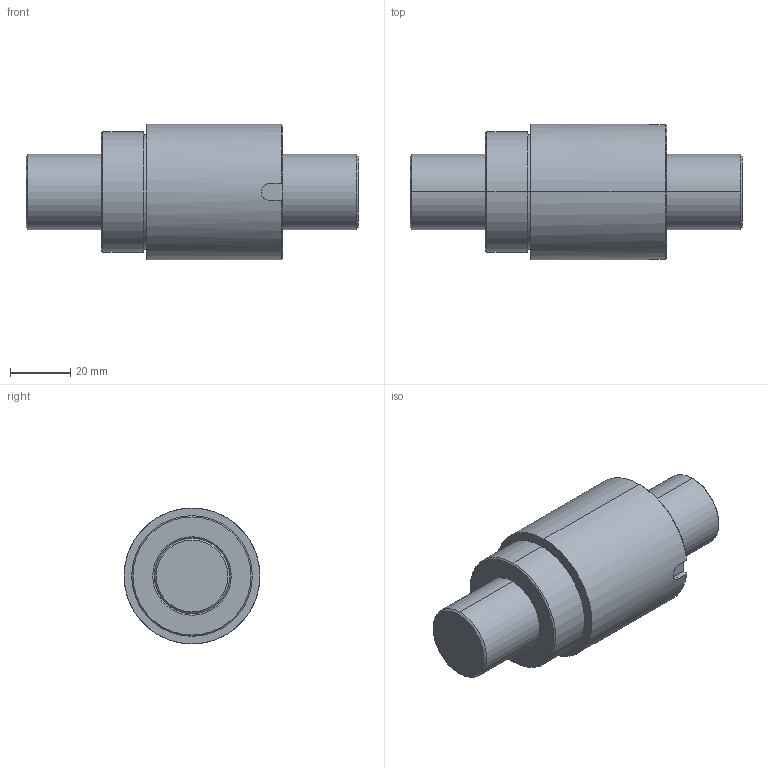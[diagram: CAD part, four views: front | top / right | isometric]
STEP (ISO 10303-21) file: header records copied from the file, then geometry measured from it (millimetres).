
FILE_DESCRIPTION(('no description'),'unknown implementation level');
FILE_NAME('R25_05T4_SE_110_110_0_023_3.stp',' ',('HIWIN GmbH'),('CADClick - KiM GmbH - www.kimweb.de'),'unknown preprocess','ACIS','unknown authorization');
FILE_SCHEMA(('automotive_design'));
Length unit declared in the file: millimetre
Products named in the file (2): R25-05T4-SE 110 110 0.023; R25-05T4-SE 110 110 0.023_1
Bounding box: 110 x 45 x 45 mm (x, y, z)
Volume: 114623.6 mm3; surface area: 24888.4 mm2
Topology: 2 solids, 2 shells, 40 faces, 90 edges, 56 vertices
Faces by surface type: cone 14, cylinder 14, plane 12
Entity records: 2275 total; most frequent: CARTESIAN_POINT 264, DIRECTION 206, STYLED_ITEM 188, PRESENTATION_STYLE_ASSIGNMENT 188, COLOUR_RGB 188, ORIENTED_EDGE 180, EDGE_CURVE 90, CURVE_STYLE 90
